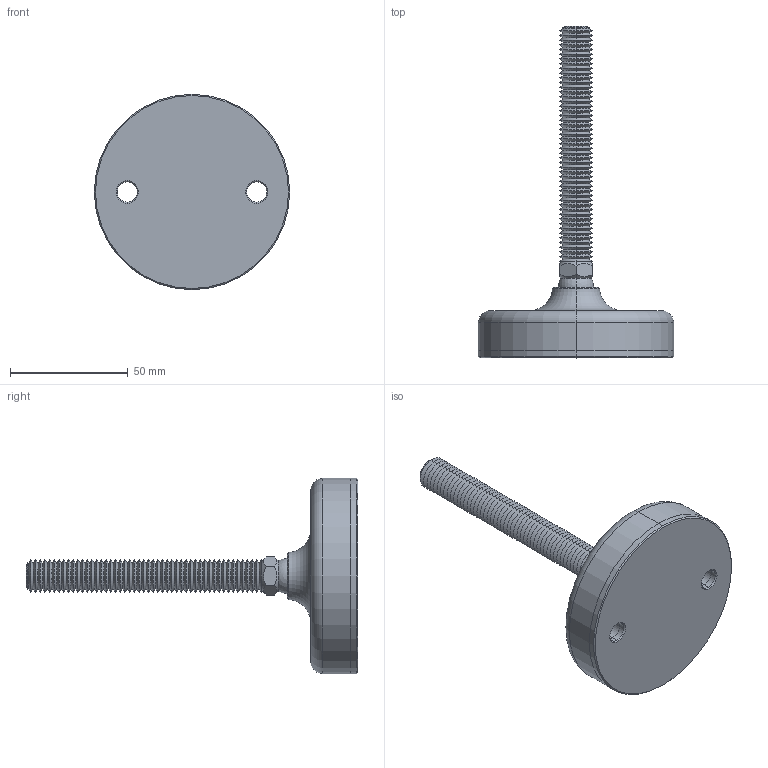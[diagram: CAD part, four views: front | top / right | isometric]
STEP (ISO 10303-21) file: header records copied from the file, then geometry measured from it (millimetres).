
FILE_DESCRIPTION (( 'STEP AP203' ), '1' );
FILE_NAME ('34724.W1402.step', '2019-11-28T22:09:57', ( '' ), ( '' ), 'SwSTEP 2.0', 'SolidWorks 2017', '' );
FILE_SCHEMA (( 'CONFIG_CONTROL_DESIGN' ));
Length unit declared in the file: millimetre
Products named in the file (4): 34724.W1402; Part2_34724.W1402; Part3_34724.W1402; Part1_34724.W1402
Assembly tree (3 placements, depth 2):
  34724.W1402
    Part1_34724.W1402
    Part2_34724.W1402
    Part3_34724.W1402
Bounding box: 83 x 141 x 83 mm (x, y, z)
Volume: 122961.2 mm3; surface area: 36073.5 mm2
Topology: 3 solids, 3 shells, 252 faces, 519 edges, 273 vertices
Faces by surface type: cone 218, plane 14, cylinder 12, sphere 4, torus 4
Entity records: 6958 total; most frequent: DIRECTION 1276, CARTESIAN_POINT 1180, ORIENTED_EDGE 1020, AXIS2_PLACEMENT_3D 520, EDGE_CURVE 510, VERTEX_POINT 268, EDGE_LOOP 264, CIRCLE 262
